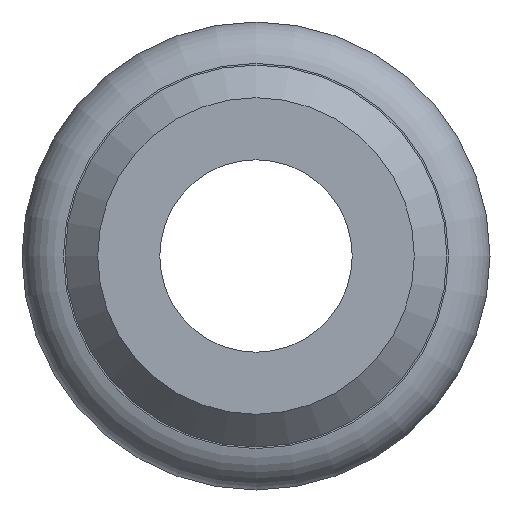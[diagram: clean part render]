
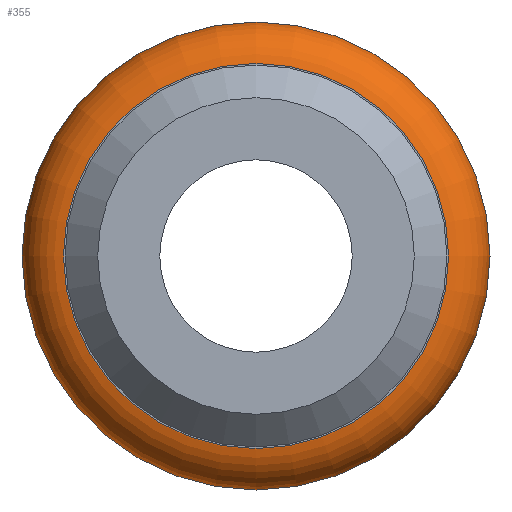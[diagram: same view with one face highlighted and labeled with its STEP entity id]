
A CAD part, front view. The second image highlights one B-rep face of the part: STEP entity #355.
In plain terms, the highlighted toroidal (fillet/blend) face has major radius 2.882 mm and minor radius 0.761 mm.
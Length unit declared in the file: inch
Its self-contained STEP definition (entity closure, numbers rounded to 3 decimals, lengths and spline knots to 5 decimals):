
#63=FACE_OUTER_BOUND('',#84,.T.);
#84=EDGE_LOOP('',(#250,#251,#252,#253));
#114=CIRCLE('',#395,0.02996);
#115=CIRCLE('',#396,0.08349);
#156=VERTEX_POINT('',#600);
#196=EDGE_CURVE('',#156,#156,#114,.T.);
#197=EDGE_CURVE('',#156,#156,#115,.T.);
#250=ORIENTED_EDGE('',*,*,#196,.F.);
#251=ORIENTED_EDGE('',*,*,#197,.T.);
#252=ORIENTED_EDGE('',*,*,#196,.T.);
#253=ORIENTED_EDGE('',*,*,#197,.F.);
#351=TOROIDAL_SURFACE('',#394,0.11345,0.02996);
#355=ADVANCED_FACE('',(#63),#351,.T.);
#394=AXIS2_PLACEMENT_3D('',#599,#463,#464);
#395=AXIS2_PLACEMENT_3D('',#601,#465,#466);
#396=AXIS2_PLACEMENT_3D('',#602,#467,#468);
#463=DIRECTION('center_axis',(0.,-1.,0.));
#464=DIRECTION('ref_axis',(0.,0.,-1.));
#465=DIRECTION('center_axis',(-1.,0.,0.));
#466=DIRECTION('ref_axis',(0.,0.,1.));
#467=DIRECTION('center_axis',(0.,1.,0.));
#468=DIRECTION('ref_axis',(0.,0.,-1.));
#599=CARTESIAN_POINT('Origin',(0.,3.462,0.));
#600=CARTESIAN_POINT('',(0.,3.462,0.08349));
#601=CARTESIAN_POINT('Origin',(0.,3.462,0.11345));
#602=CARTESIAN_POINT('Origin',(0.,3.462,0.));
